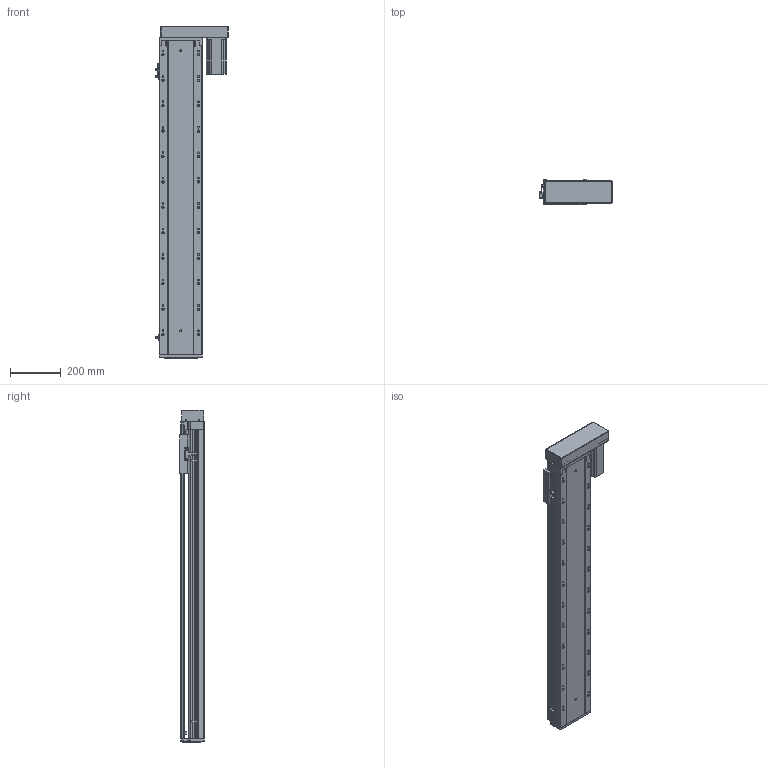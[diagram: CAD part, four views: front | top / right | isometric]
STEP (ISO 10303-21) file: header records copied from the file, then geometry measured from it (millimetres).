
FILE_DESCRIPTION (( 'STEP AP203' ), '1' );
FILE_NAME ('RY170-L2510-300-RK.SLDASM_1000.step', '2021-03-12T09:18:32', ( '盈信电脑' ), ( '东莞市道滘镇水果街19号' ), 'SwSTEP 2.0', 'SolidWorks 2012', '' );
FILE_SCHEMA (( 'CONFIG_CONTROL_DESIGN' ));
Products named in the file (14): RY170外置感应片(200共用）; RY170-L2510-300-RK.SLDASM_1000; 覜茼ん672; RY170-酘衵殏750W萇儂傷; 怢湛750W萇儂ㄗ80遺ㄘ; RY170酘衵殏萇儂欶750W; RY170-左右折电机安装板750W; 滅袉蝶18-10; 滅袉蝶18-20; RY170转折电机端支撑座(7004); 改造-RY170铝滑块25丝杆螺母; RY170綴裔啣; RY170-300倰第菁釱-RK_1000; RY170-300倰第裔啣-RK_1000
Assembly tree (15 placements, depth 3):
  RY170-L2510-300-RK.SLDASM_1000
    RY170-300倰第菁釱-RK_1000
    改造-RY170铝滑块25丝杆螺母
    RY170-300倰第裔啣-RK_1000
    RY170綴裔啣
    滅袉蝶18-20
    滅袉蝶18-10
    RY170转折电机端支撑座(7004)
    RY170-酘衵殏750W萇儂傷
      RY170-左右折电机安装板750W
      RY170酘衵殏萇儂欶750W
      怢湛750W萇儂ㄗ80遺ㄘ
    覜茼ん672  x3
    RY170外置感应片(200共用）
Bounding box: 286.2 x 97 x 1305 mm (x, y, z)
Volume: 7187850.4 mm3; surface area: 2256799.4 mm2
Topology: 14 solids, 14 shells, 2331 faces, 6798 edges, 4372 vertices
Faces by surface type: plane 1096, cylinder 1030, cone 186, bspline 19
Entity records: 77627 total; most frequent: CARTESIAN_POINT 19614, ORIENTED_EDGE 12316, DIRECTION 11172, EDGE_CURVE 6158, VERTEX_POINT 4052, AXIS2_PLACEMENT_3D 3768, VECTOR 3636, LINE 3636
